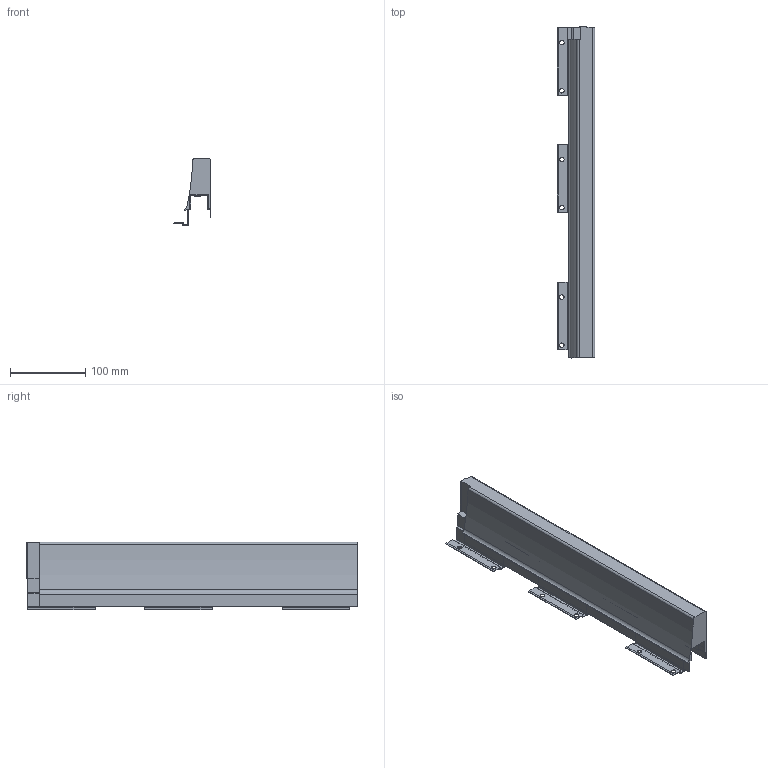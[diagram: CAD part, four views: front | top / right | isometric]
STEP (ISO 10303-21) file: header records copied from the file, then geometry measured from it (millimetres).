
FILE_DESCRIPTION (( 'STEP AP214' ), '1' );
FILE_NAME ('_XP Agantis Dekorseite H95 NL450 RE.step', '2010-07-08T06:05:26', ( 'grass' ), ( '' ), 'SwSTEP 2.0', 'SolidWorks 2010', '' );
FILE_SCHEMA (( 'AUTOMOTIVE_DESIGN' ));
Length unit declared in the file: millimetre
Products named in the file (1): _XP Agantis Dekorseite H95 NL450 RE
Bounding box: 50.01 x 441.5 x 89.5 mm (x, y, z)
Volume: 626939.6 mm3; surface area: 150026.2 mm2
Topology: 1 solids, 1 shells, 130 faces, 382 edges, 249 vertices
Faces by surface type: plane 103, cylinder 27
Entity records: 4335 total; most frequent: ORIENTED_EDGE 764, CARTESIAN_POINT 762, DIRECTION 699, EDGE_CURVE 382, LINE 327, VECTOR 327, VERTEX_POINT 249, AXIS2_PLACEMENT_3D 186
